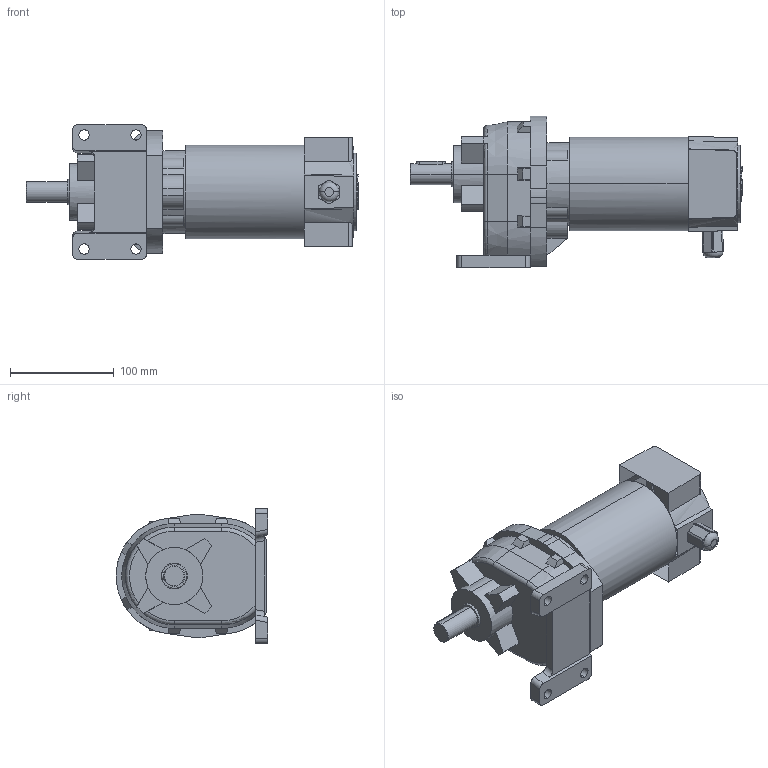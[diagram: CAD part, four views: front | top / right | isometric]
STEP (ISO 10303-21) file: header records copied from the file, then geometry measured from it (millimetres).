
FILE_DESCRIPTION(('OneSpaceDesigner STEP Export'),'2;1');
FILE_NAME('EPG21_S60.stp','2008-07-17T11:25:02',(''),(''),'OneSpace Designer STEP processor (Jan. 2003) for AP214(CD)(Solid Model)','OneSpace Designer 12.01D 09-Jul-2004 (C) CoCreate Software GmbH','');
FILE_SCHEMA(('AUTOMOTIVE_DESIGN_CC2 {1 2 10303 214 -1 1 5 1}'));
Length unit declared in the file: millimetre
Products named in the file (2): EPG21_S60
Assembly tree (1 placements, depth 2):
  EPG21_S60
    EPG21_S60
Bounding box: 320 x 145.81 x 130 mm (x, y, z)
Volume: 2173623.6 mm3; surface area: 139716.2 mm2
Topology: 1 solids, 1 shells, 184 faces, 501 edges, 329 vertices
Faces by surface type: plane 102, cylinder 64, torus 7, cone 7, bspline 2, extrusion 2
Entity records: 8536 total; most frequent: CARTESIAN_POINT 4006, ORIENTED_EDGE 1002, DIRECTION 849, EDGE_CURVE 501, VERTEX_POINT 329, VECTOR 285, LINE 283, AXIS2_PLACEMENT_3D 282
